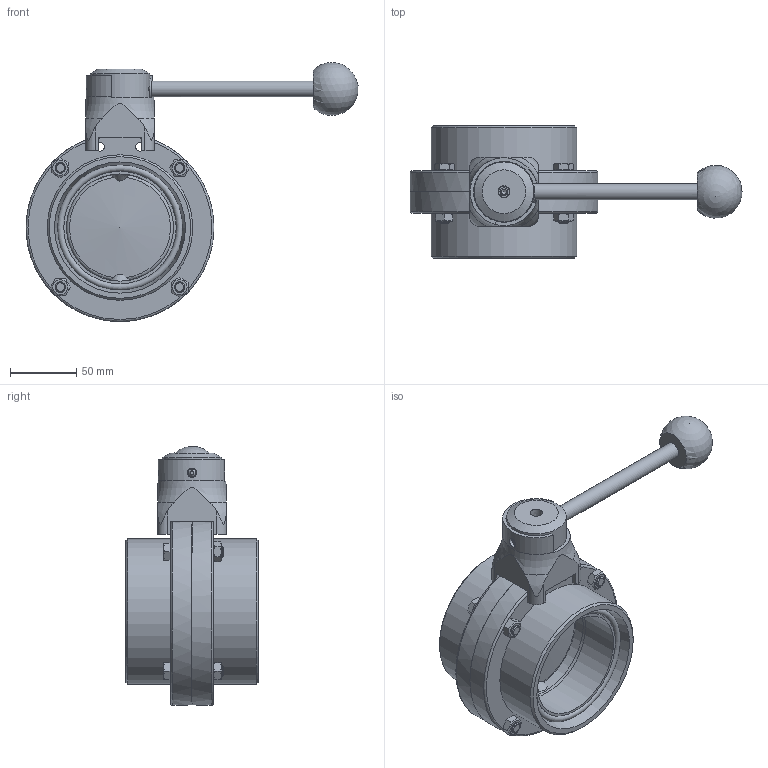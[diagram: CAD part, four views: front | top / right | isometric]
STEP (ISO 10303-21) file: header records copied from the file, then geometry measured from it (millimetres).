
FILE_DESCRIPTION((''),'2;1');
FILE_NAME('K:\2013 konstrukce\4xxxx\43030-KLAPKA PŘÍMÁ G-G\43030-080\43030-080.stp','2019-12-09T14:27:54',('konstrukce'),(''),'Autodesk Inventor 2010','Autodesk Inventor 2010','');
FILE_SCHEMA(('AUTOMOTIVE_DESIGN { 1 0 10303 214 1 1 1 1 }'));
Length unit declared in the file: millimetre
Products named in the file (15): 43030-080; 4329-080-Srdca klapky; 4330-080-Ložisko klapky; 4382-080-NEW-TW-Přírubá klapka-závitová; 20040-080-Těsnění; 4328-080-Těsnění pro klapku; DIN 933 - nahrazený DIN EN 24017 M8  x 40; 43380-080-100; 43481-080-100-9,5; 43482-080-100-2; 43482-080-100; 43483-080-100; 43484-Pružina velká-080-100; KOULA-80-100; DIN 934 - nahrazený DIN EN 24032/28673/28674 M8
Assembly tree (23 placements, depth 3):
  43030-080
    4329-080-Srdca klapky
    4330-080-Ložisko klapky  x2
    4382-080-NEW-TW-Přírubá klapka-závitová  x2
    20040-080-Těsnění  x2
    4328-080-Těsnění pro klapku
    DIN 933 - nahrazený DIN EN 24017 M8  x 40  x4
    43380-080-100
      43481-080-100-9,5
      43482-080-100-2
      43482-080-100
      43483-080-100
      43484-Pružina velká-080-100
      KOULA-80-100
    DIN 934 - nahrazený DIN EN 24032/28673/28674 M8  x4
Bounding box: 250.85 x 100 x 195.68 mm (x, y, z)
Volume: 792321.3 mm3; surface area: 214391.1 mm2
Topology: 22 solids, 22 shells, 340 faces, 791 edges, 499 vertices
Faces by surface type: plane 152, cylinder 78, cone 69, bspline 29, torus 11, sphere 1
Full cylindrical faces by diameter (mm): 6 x2, 6.5 x4, 7.323 x4, 8 x4, 8.5 x11, 11.4 x4, 12 x2, 12.2 x1, 13.7 x1, 14 x4, 16 x3, 16.1 x1, 45 x1, 81 x2, 85 x4, 94.8 x2, 95 x2, 99.9 x2, 101 x1, 110 x2, 142 x2
Entity records: 7775 total; most frequent: CARTESIAN_POINT 3051, DIRECTION 887, ORIENTED_EDGE 784, EDGE_CURVE 392, AXIS2_PLACEMENT_3D 364, EDGE_LOOP 323, VERTEX_POINT 291, FACE_OUTER_BOUND 202
